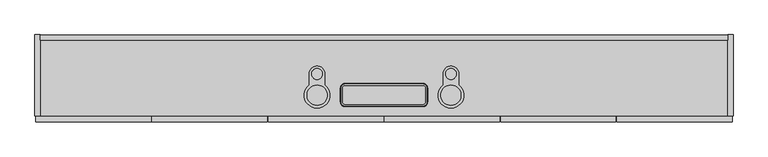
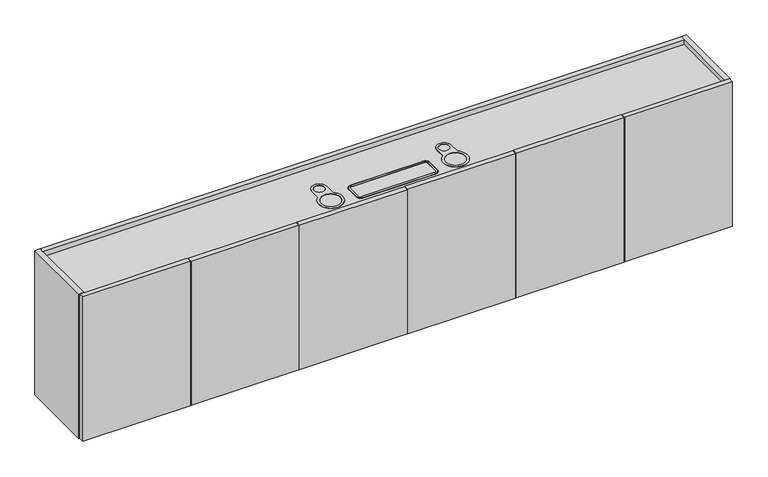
"""IFC4 building model written with IfcOpenShell, lengths in millimetres: furniture geometry, Geiger_GeigerOneCasegoods_UtilityCabinetForUseinHuddleApplication : Vertical Veneer 96Wx 12Dx 22.5H."""

from ifc_helpers import new_model, si_unit, point, frame, origin, place, context, project, spatial, polyline, circle_curve, ellipse_curve, trimmed, outline, extrude, faceted_brep, source, transform, mapped, element, save
from ifc_brep_helpers import plane_surface, cylinder_surface, revolved_surface, advanced_brep


def furniture_a65631a2(model_context):
    return source(origin(), model_context, "Body", "SolidModel", [
        extrude(outline(polyline([(405.8444444, -304.8), (3.0, -304.8), (3.0, -285.8), (405.8444444, -285.8), (405.8444444, -304.8)])), frame((0.0, 0.0, 12.7), z_axis=(0.0, 0.0, 1.0), x_axis=(1.0, 0.0, 0.0)), (0.0, 0.0, 1.0), 571.5),
        extrude(outline(polyline([(811.6888889, -304.8), (408.8444444, -304.8), (408.8444444, -285.8), (811.6888889, -285.8), (811.6888889, -304.8)])), frame((0.0, 0.0, 12.7), z_axis=(0.0, 0.0, 1.0), x_axis=(1.0, 0.0, 0.0)), (0.0, 0.0, 1.0), 571.5),
        extrude(outline(polyline([(1217.7, -304.8), (814.6888889, -304.8), (814.6888889, -285.8), (1217.7, -285.8), (1217.7, -304.8)])), frame((0.0, 0.0, 12.7), z_axis=(0.0, 0.0, 1.0), x_axis=(1.0, 0.0, 0.0)), (0.0, 0.0, 1.0), 571.5),
        extrude(outline(polyline([(1623.4878889, -304.8), (1220.7, -304.8), (1220.7, -285.8), (1623.4878889, -285.8), (1623.4878889, -304.8)])), frame((0.0, 0.0, 12.7), z_axis=(0.0, 0.0, 1.0), x_axis=(1.0, 0.0, 0.0)), (0.0, 0.0, 1.0), 571.5),
        extrude(outline(polyline([(2029.4424444, -304.8), (1626.4878889, -304.8), (1626.4878889, -285.8), (2029.4424444, -285.8), (2029.4424444, -304.8)])), frame((0.0, 0.0, 12.7), z_axis=(0.0, 0.0, 1.0), x_axis=(1.0, 0.0, 0.0)), (0.0, 0.0, 1.0), 571.5),
        extrude(outline(polyline([(2435.4, -304.8), (2032.4424444, -304.8), (2032.4424444, -285.8), (2435.4, -285.8), (2435.4, -304.8)])), frame((0.0, 0.0, 12.7), z_axis=(0.0, 0.0, 1.0), x_axis=(1.0, 0.0, 0.0)), (0.0, 0.0, 1.0), 571.5),
        extrude(outline(polyline([(1634.85, -19.5), (1634.85, -284.8), (1615.85, -284.8), (1615.85, -19.5), (1634.85, -19.5)])), frame((0.0, 0.0, 12.7), z_axis=(0.0, 0.0, 1.0), x_axis=(1.0, 0.0, 0.0)), (0.0, 0.0, 1.0), 533.5),
        faceted_brep([(2419.4, -19.5, 584.2), (2419.4, -19.5, 29.0), (2419.4, -0.5, 29.0), (2419.4, -0.5, 584.2), (2419.4, -284.3, 156.0), (2419.4, -284.3, 29.0), (2419.4, -265.3, 29.0), (2419.4, -265.3, 156.0), (19.0, -19.5, 584.2), (19.0, -0.5, 584.2), (19.0, -0.5, 29.0), (19.0, -19.5, 29.0), (19.0, -284.3, 156.0), (19.0, -265.3, 156.0), (19.0, -265.3, 29.0), (19.0, -284.3, 29.0), (803.55, -19.5, 29.0), (803.55, -19.5, 546.2), (822.55, -19.5, 546.2), (822.55, -19.5, 29.0), (822.55, -284.3, 156.0), (822.55, -284.3, 29.0), (803.55, -284.3, 29.0), (803.55, -284.3, 156.0), (822.55, -265.3, 29.0), (803.55, -265.3, 29.0), (822.55, -265.3, 156.0), (803.55, -265.3, 156.0), (803.55, -284.8, 12.7), (803.55, -284.8, 546.2), (803.55, -19.5, 12.7), (822.55, -284.8, 12.7), (822.55, -19.5, 12.7), (822.55, -284.8, 546.2)], [[[0, 1, 2, 3]], [[4, 5, 6, 7]], [[8, 9, 10, 11]], [[12, 13, 14, 15]], [[1, 0, 8, 11, 16, 17, 18, 19]], [[2, 1, 19, 16, 11, 10]], [[3, 2, 10, 9]], [[0, 3, 9, 8]], [[5, 4, 20, 21]], [[12, 15, 22, 23]], [[6, 5, 21, 24]], [[15, 14, 25, 22]], [[7, 6, 24, 26]], [[14, 13, 27, 25]], [[4, 7, 26, 20]], [[13, 12, 23, 27]], [[28, 29, 17, 16, 30], [23, 22, 25, 27]], [[31, 32, 19, 18, 33], [21, 20, 26, 24]], [[29, 28, 31, 33]], [[17, 29, 33, 18]], [[32, 30, 16, 19]], [[28, 30, 32, 31]]]),
        extrude(outline(polyline([(2419.4, -19.5), (2419.4, -284.8), (19.0, -284.8), (19.0, -19.5), (2419.4, -19.5)])), frame((0.0, 0.0, 546.2), z_axis=(0.0, 0.0, 1.0), x_axis=(1.0, 0.0, 0.0)), (0.0, 0.0, 1.0), 19.0),
        extrude(outline(polyline([(19.0, -284.8), (0.0, -284.8), (0.0, 0.0), (19.0, 0.0), (19.0, -284.8)])), frame((0.0, 0.0, 12.7), z_axis=(0.0, 0.0, 1.0), x_axis=(1.0, 0.0, 0.0)), (0.0, 0.0, 1.0), 571.5),
        extrude(outline(polyline([(2438.4, -284.8), (2419.4, -284.8), (2419.4, 0.0), (2438.4, 0.0), (2438.4, -284.8)])), frame((0.0, 0.0, 12.7), z_axis=(0.0, 0.0, 1.0), x_axis=(1.0, 0.0, 0.0)), (0.0, 0.0, 1.0), 571.5),
        advanced_brep(
        [(1067.9203563, -186.4, 566.7), (1083.1, -171.2203563, 566.7), (1083.1, -169.9922964, 565.2), (1066.6922964, -186.4, 565.2), (1066.6922964, -235.6, 565.2), (1067.9203563, -235.6, 566.7), (1083.1, -252.0077036, 565.2), (1083.1, -250.7796437, 566.7), (1355.3, -252.0077036, 565.2), (1355.3, -250.7796437, 566.7), (1371.7077036, -235.6, 565.2), (1370.4796437, -235.6, 566.7), (1371.7077036, -186.4, 565.2), (1370.4796437, -186.4, 566.7), (1355.3, -169.9922964, 565.2), (1355.3, -171.2203563, 566.7), (1083.1, -178.5, 566.7), (1355.3, -178.5, 566.7), (1363.2, -186.4, 566.7), (1363.2, -235.6, 566.7), (1355.3, -243.5, 566.7), (1083.1, -243.5, 566.7), (1075.2, -235.6, 566.7), (1075.2, -186.4, 566.7), (1075.2, -186.4, 566.001635), (1083.1, -178.5, 566.001635), (1075.2, -235.6, 566.001635), (1083.1, -243.5, 566.001635), (1355.3, -243.5, 566.001635), (1363.2, -235.6, 566.001635), (1363.2, -186.4, 566.001635), (1355.3, -178.5, 566.001635)],
        [
            (0, 1, circle_curve(frame((1083.1, -186.4, 566.7), z_axis=(0.0, 0.0, -1.0), x_axis=(0.0, 1.0, 0.0)), 15.1796437)),
            (1, 2, circle_curve(frame((1083.1, -171.2203563, 565.4472896), z_axis=(-1.0, 0.0, 0.0), x_axis=(0.0, -1.0, 0.0)), 1.2527104)),
            (2, 3, circle_curve(frame((1083.1, -186.4, 565.2), z_axis=(0.0, 0.0, 1.0), x_axis=(0.0, 1.0, 0.0)), 16.4077036)),
            (3, 0, circle_curve(frame((1067.9203563, -186.4, 565.4472896), z_axis=(0.0, 1.0, 0.0), x_axis=(1.0, 0.0, 0.0)), 1.2527104)),
            (3, 4),
            (4, 5, circle_curve(frame((1067.9203563, -235.6, 565.4472896), z_axis=(0.0, 1.0, 0.0), x_axis=(1.0, 0.0, 0.0)), 1.2527104)),
            (5, 0),
            (4, 6, circle_curve(frame((1083.1, -235.6, 565.2), z_axis=(0.0, 0.0, 1.0), x_axis=(-1.0, 0.0, 0.0)), 16.4077036)),
            (6, 7, circle_curve(frame((1083.1, -250.7796437, 565.4472896), z_axis=(-1.0, 0.0, 0.0), x_axis=(0.0, 1.0, 0.0)), 1.2527104)),
            (7, 5, circle_curve(frame((1083.1, -235.6, 566.7), z_axis=(0.0, 0.0, -1.0), x_axis=(-1.0, 0.0, 0.0)), 15.1796437)),
            (6, 8),
            (8, 9, circle_curve(frame((1355.3, -250.7796437, 565.4472896), z_axis=(-1.0, 0.0, 0.0), x_axis=(0.0, 1.0, 0.0)), 1.2527104)),
            (9, 7),
            (8, 10, circle_curve(frame((1355.3, -235.6, 565.2), z_axis=(0.0, 0.0, 1.0), x_axis=(0.0, -1.0, 0.0)), 16.4077036)),
            (10, 11, circle_curve(frame((1370.4796437, -235.6, 565.4472896), z_axis=(0.0, -1.0, 0.0), x_axis=(-1.0, 0.0, 0.0)), 1.2527104)),
            (11, 9, circle_curve(frame((1355.3, -235.6, 566.7), z_axis=(0.0, 0.0, -1.0), x_axis=(0.0, -1.0, 0.0)), 15.1796437)),
            (10, 12),
            (12, 13, circle_curve(frame((1370.4796437, -186.4, 565.4472896), z_axis=(0.0, -1.0, 0.0), x_axis=(-1.0, 0.0, 0.0)), 1.2527104)),
            (13, 11),
            (12, 14, circle_curve(frame((1355.3, -186.4, 565.2), z_axis=(0.0, 0.0, 1.0), x_axis=(1.0, 0.0, 0.0)), 16.4077036)),
            (14, 15, circle_curve(frame((1355.3, -171.2203563, 565.4472896), z_axis=(1.0, 0.0, 0.0), x_axis=(0.0, -1.0, 0.0)), 1.2527104)),
            (15, 13, circle_curve(frame((1355.3, -186.4, 566.7), z_axis=(0.0, 0.0, -1.0), x_axis=(1.0, 0.0, 0.0)), 15.1796437)),
            (1, 15),
            (14, 2),
            (16, 17),
            (17, 18, circle_curve(frame((1355.3, -186.4, 566.7), z_axis=(0.0, 0.0, -1.0), x_axis=(1.0, 0.0, 0.0)), 7.9)),
            (18, 19),
            (19, 20, circle_curve(frame((1355.3, -235.6, 566.7), z_axis=(0.0, 0.0, -1.0), x_axis=(0.0, -1.0, 0.0)), 7.9)),
            (20, 21),
            (21, 22, circle_curve(frame((1083.1, -235.6, 566.7), z_axis=(0.0, 0.0, -1.0), x_axis=(-1.0, 0.0, 0.0)), 7.9)),
            (22, 23),
            (23, 16, circle_curve(frame((1083.1, -186.4, 566.7), z_axis=(0.0, 0.0, -1.0), x_axis=(0.0, 1.0, 0.0)), 7.9)),
            (23, 24),
            (24, 25, circle_curve(frame((1083.1, -186.4, 566.001635), z_axis=(0.0, 0.0, -1.0), x_axis=(0.0, 1.0, 0.0)), 7.9)),
            (25, 16),
            (22, 26),
            (26, 24),
            (21, 27),
            (27, 26, circle_curve(frame((1083.1, -235.6, 566.001635), z_axis=(0.0, 0.0, -1.0), x_axis=(-1.0, 0.0, 0.0)), 7.9)),
            (20, 28),
            (28, 27),
            (19, 29),
            (29, 28, circle_curve(frame((1355.3, -235.6, 566.001635), z_axis=(0.0, 0.0, -1.0), x_axis=(0.0, -1.0, 0.0)), 7.9)),
            (18, 30),
            (30, 29),
            (17, 31),
            (31, 30, circle_curve(frame((1355.3, -186.4, 566.001635), z_axis=(0.0, 0.0, -1.0), x_axis=(1.0, 0.0, 0.0)), 7.9)),
            (25, 31),
        ],
        [
            revolved_surface(trimmed(ellipse_curve(frame((1083.1, -171.2203563, 565.4472896), z_axis=(1.0, 0.0, 0.0), x_axis=(0.0, -1.0, 0.0)), 1.2527104, 1.2527104), [point((1083.1, -169.9922964, 565.2))], [point((1083.1, -171.2203563, 566.7))], True, "CARTESIAN"), (1083.1, -186.4, 565.2), (0.0, 0.0, 1.0)),
            cylinder_surface(frame((1067.9203563, -186.4, 565.4472896), z_axis=(0.0, 1.0, 0.0), x_axis=(1.0, 0.0, 0.0)), 1.2527104),
            revolved_surface(trimmed(ellipse_curve(frame((1067.9203563, -235.6, 565.4472896), z_axis=(0.0, 1.0, 0.0), x_axis=(1.0, 0.0, 0.0)), 1.2527104, 1.2527104), [point((1066.6922964, -235.6, 565.2))], [point((1067.9203563, -235.6, 566.7))], True, "CARTESIAN"), (1083.1, -235.6, 565.2), (0.0, 0.0, 1.0)),
            cylinder_surface(frame((1083.1, -250.7796437, 565.4472896), z_axis=(-1.0, 0.0, 0.0), x_axis=(0.0, 1.0, 0.0)), 1.2527104),
            revolved_surface(trimmed(ellipse_curve(frame((1355.3, -250.7796437, 565.4472896), z_axis=(-1.0, 0.0, 0.0), x_axis=(0.0, 1.0, 0.0)), 1.2527104, 1.2527104), [point((1355.3, -252.0077036, 565.2))], [point((1355.3, -250.7796437, 566.7))], True, "CARTESIAN"), (1355.3, -235.6, 565.2), (0.0, 0.0, 1.0)),
            cylinder_surface(frame((1370.4796437, -235.6, 565.4472896), z_axis=(0.0, -1.0, 0.0), x_axis=(-1.0, 0.0, 0.0)), 1.2527104),
            revolved_surface(trimmed(ellipse_curve(frame((1370.4796437, -186.4, 565.4472896), z_axis=(0.0, -1.0, 0.0), x_axis=(-1.0, 0.0, 0.0)), 1.2527104, 1.2527104), [point((1371.7077036, -186.4, 565.2))], [point((1370.4796437, -186.4, 566.7))], True, "CARTESIAN"), (1355.3, -186.4, 565.2), (0.0, 0.0, 1.0)),
            cylinder_surface(frame((1355.3, -171.2203563, 565.4472896), z_axis=(1.0, 0.0, 0.0), x_axis=(0.0, -1.0, 0.0)), 1.2527104),
            plane_surface(frame((1355.3, -171.2203563, 566.7), z_axis=(0.0, 0.0, 1.0), x_axis=(-1.0, 0.0, 0.0))),
            revolved_surface(polyline([(1083.1, -178.5, 566.7), (1083.1, -178.5, 566.001635)]), (1083.1, -186.4, 565.2), (0.0, 0.0, 1.0)),
            plane_surface(frame((1075.2, -186.4, 566.7), z_axis=(1.0, 0.0, 0.0), x_axis=(0.0, -1.0, 0.0))),
            revolved_surface(polyline([(1075.1999999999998, -235.6, 566.7), (1075.1999999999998, -235.6, 566.001635)]), (1083.1, -235.6, 565.2), (0.0, 0.0, 1.0)),
            plane_surface(frame((1083.1, -243.5, 566.7), z_axis=(0.0, 1.0, 0.0), x_axis=(1.0, 0.0, 0.0))),
            revolved_surface(polyline([(1355.3, -243.5, 566.7), (1355.3, -243.5, 566.001635)]), (1355.3, -235.6, 565.2), (0.0, 0.0, 1.0)),
            plane_surface(frame((1363.2, -235.6, 566.7), z_axis=(-1.0, 0.0, 0.0), x_axis=(0.0, 1.0, 0.0))),
            revolved_surface(polyline([(1363.2, -186.4, 566.7), (1363.2, -186.4, 566.001635)]), (1355.3, -186.4, 565.2), (0.0, 0.0, 1.0)),
            plane_surface(frame((1355.3, -178.5, 566.7), z_axis=(0.0, -1.0, 0.0), x_axis=(-1.0, 0.0, 0.0))),
            plane_surface(frame((1355.3, -178.5, 565.2), z_axis=(0.0, 0.0, -1.0), x_axis=(-1.0, 0.0, 0.0))),
            plane_surface(frame((1083.1, -178.5, 566.001635), z_axis=(0.0, 0.0, 1.0), x_axis=(-1.0, 0.0, 0.0))),
        ],
        [
            (0, [[1, 2, 3, 4]]),
            (1, [[-4, 5, 6, 7]]),
            (2, [[-6, 8, 9, 10]]),
            (3, [[-9, 11, 12, 13]]),
            (4, [[-12, 14, 15, 16]]),
            (5, [[-15, 17, 18, 19]]),
            (6, [[-18, 20, 21, 22]]),
            (7, [[-2, 23, -21, 24]]),
            (8, [[-1, -7, -10, -13, -16, -19, -22, -23], [25, 26, 27, 28, 29, 30, 31, 32]]),
            (9, [[-32, 33, 34, 35]]),
            (10, [[-31, 36, 37, -33]]),
            (11, [[-30, 38, 39, -36]]),
            (12, [[-29, 40, 41, -38]]),
            (13, [[-28, 42, 43, -40]]),
            (14, [[-27, 44, 45, -42]]),
            (15, [[-26, 46, 47, -44]]),
            (16, [[-25, -35, 48, -46]]),
            (17, [[-3, -24, -20, -17, -14, -11, -8, -5]]),
            (18, [[-34, -37, -39, -41, -43, -45, -47, -48]]),
        ],
    ),
        advanced_brep(
        [(1013.02, -175.7120661, 565.2), (958.02, -175.7120661, 565.2), (958.02, -137.2423843, 565.2), (1013.02, -137.2423843, 565.2), (1013.02, -175.7120661, 566.8), (1013.02, -137.2423843, 566.8), (958.02, -137.2423843, 566.8), (958.02, -175.7120661, 566.8), (985.52, -156.1737393, 566.8), (985.52, -118.3110294, 566.8), (985.52, -246.8820899, 566.8), (985.52, -176.0226387, 566.8), (985.52, -156.1737393, 566.001635), (985.52, -118.3110294, 566.001635), (985.52, -246.8820899, 566.001635), (985.52, -176.0226387, 566.001635)],
        [
            (0, 1, circle_curve(frame((985.52, -211.4523643, 565.2), z_axis=(0.0, 0.0, -1.0), x_axis=(0.0, 1.0, 0.0)), 45.095664)),
            (1, 2),
            (2, 3, circle_curve(frame((985.52, -137.2423843, 565.2), z_axis=(0.0, 0.0, -1.0), x_axis=(0.0, 1.0, 0.0)), 27.5)),
            (3, 0),
            (4, 5),
            (5, 6, circle_curve(frame((985.52, -137.2423843, 566.8), z_axis=(0.0, 0.0, 1.0), x_axis=(0.0, 1.0, 0.0)), 27.5)),
            (6, 7),
            (7, 4, circle_curve(frame((985.52, -211.4523643, 566.8), z_axis=(0.0, 0.0, 1.0), x_axis=(0.0, 1.0, 0.0)), 45.095664)),
            (8, 9, circle_curve(frame((985.52, -137.2423843, 566.8), z_axis=(0.0, 0.0, -1.0), x_axis=(0.0, 1.0, 0.0)), 18.931355)),
            (9, 8, circle_curve(frame((985.52, -137.2423843, 566.8), z_axis=(0.0, 0.0, -1.0), x_axis=(0.0, 1.0, 0.0)), 18.931355)),
            (10, 11, circle_curve(frame((985.52, -211.4523643, 566.8), z_axis=(0.0, 0.0, -1.0), x_axis=(0.0, 1.0, 0.0)), 35.4297256)),
            (11, 10, circle_curve(frame((985.52, -211.4523643, 566.8), z_axis=(0.0, 0.0, -1.0), x_axis=(0.0, 1.0, 0.0)), 35.4297256)),
            (3, 5),
            (4, 0),
            (2, 6),
            (1, 7),
            (8, 12),
            (12, 13, circle_curve(frame((985.52, -137.2423843, 566.001635), z_axis=(0.0, 0.0, -1.0), x_axis=(0.0, 1.0, 0.0)), 18.931355)),
            (13, 9),
            (13, 12, circle_curve(frame((985.52, -137.2423843, 566.001635), z_axis=(0.0, 0.0, -1.0), x_axis=(0.0, 1.0, 0.0)), 18.931355)),
            (10, 14),
            (14, 15, circle_curve(frame((985.52, -211.4523643, 566.001635), z_axis=(0.0, 0.0, -1.0), x_axis=(0.0, 1.0, 0.0)), 35.4297256)),
            (15, 11),
            (15, 14, circle_curve(frame((985.52, -211.4523643, 566.001635), z_axis=(0.0, 0.0, -1.0), x_axis=(0.0, 1.0, 0.0)), 35.4297256)),
        ],
        [
            plane_surface(frame((985.52, -265.3, 565.2), z_axis=(0.0, 0.0, -1.0), x_axis=(-1.0, 0.0, 0.0))),
            plane_surface(frame((985.52, -265.3, 566.8), z_axis=(0.0, 0.0, 1.0), x_axis=(-1.0, 0.0, 0.0))),
            plane_surface(frame((1013.02, -137.2423843, 565.2), z_axis=(1.0, 0.0, 0.0), x_axis=(0.0, 0.0, 1.0))),
            cylinder_surface(frame((985.52, -137.2423843, 565.2), z_axis=(0.0, 0.0, -1.0), x_axis=(0.0, 1.0, 0.0)), 27.5),
            plane_surface(frame((958.02, -175.7120661, 565.2), z_axis=(-1.0, 0.0, 0.0), x_axis=(0.0, 0.0, 1.0))),
            cylinder_surface(frame((985.52, -211.4523643, 565.2), z_axis=(0.0, 0.0, -1.0), x_axis=(0.0, 1.0, 0.0)), 45.095664),
            revolved_surface(polyline([(985.52, -118.3110293, 566.8), (985.52, -118.3110293, 566.001635)]), (985.52, -137.2423843, 565.2), (0.0, 0.0, 1.0)),
            revolved_surface(polyline([(985.52, -176.02263870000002, 566.8), (985.52, -176.02263870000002, 566.001635)]), (985.52, -211.4523643, 565.2), (0.0, 0.0, 1.0)),
            plane_surface(frame((966.588645, -137.2423843, 566.001635), z_axis=(0.0, 0.0, 1.0), x_axis=(0.0, -1.0, 0.0))),
        ],
        [
            (0, [[1, 2, 3, 4]]),
            (1, [[5, 6, 7, 8], [9, 10], [11, 12]]),
            (2, [[-4, 13, -5, 14]]),
            (3, [[-3, 15, -6, -13]]),
            (4, [[-2, 16, -7, -15]]),
            (5, [[-1, -14, -8, -16]]),
            (6, [[-9, 17, 18, 19]]),
            (6, [[-10, -19, 20, -17]]),
            (7, [[-11, 21, 22, 23]]),
            (7, [[-12, -23, 24, -21]]),
            (8, [[-18, -20]]),
            (8, [[-22, -24]]),
        ],
    ),
        advanced_brep(
        [(1425.38, -175.7120661, 565.2), (1425.38, -137.2423843, 565.2), (1480.38, -137.2423843, 565.2), (1480.38, -175.7120661, 565.2), (1425.38, -175.7120661, 566.8), (1480.38, -175.7120661, 566.8), (1480.38, -137.2423843, 566.8), (1425.38, -137.2423843, 566.8), (1452.88, -118.3110294, 566.8), (1452.88, -156.1737393, 566.8), (1452.88, -176.0226387, 566.8), (1452.88, -246.8820899, 566.8), (1452.88, -156.1737393, 566.1909845), (1452.88, -118.3110294, 566.1909845), (1452.88, -246.8820899, 566.1909845), (1452.88, -176.0226387, 566.1909845)],
        [
            (0, 1),
            (1, 2, circle_curve(frame((1452.88, -137.2423843, 565.2), z_axis=(0.0, 0.0, -1.0), x_axis=(0.0, -1.0, 0.0)), 27.5)),
            (2, 3),
            (3, 0, circle_curve(frame((1452.88, -211.4523643, 565.2), z_axis=(0.0, 0.0, -1.0), x_axis=(0.0, -1.0, 0.0)), 45.095664)),
            (4, 5, circle_curve(frame((1452.88, -211.4523643, 566.8), z_axis=(0.0, 0.0, 1.0), x_axis=(0.0, -1.0, 0.0)), 45.095664)),
            (5, 6),
            (6, 7, circle_curve(frame((1452.88, -137.2423843, 566.8), z_axis=(0.0, 0.0, 1.0), x_axis=(0.0, -1.0, 0.0)), 27.5)),
            (7, 4),
            (8, 9, circle_curve(frame((1452.88, -137.2423843, 566.8), z_axis=(0.0, 0.0, -1.0), x_axis=(0.0, -1.0, 0.0)), 18.931355)),
            (9, 8, circle_curve(frame((1452.88, -137.2423843, 566.8), z_axis=(0.0, 0.0, -1.0), x_axis=(0.0, -1.0, 0.0)), 18.931355)),
            (10, 11, circle_curve(frame((1452.88, -211.4523643, 566.8), z_axis=(0.0, 0.0, -1.0), x_axis=(0.0, -1.0, 0.0)), 35.4297256)),
            (11, 10, circle_curve(frame((1452.88, -211.4523643, 566.8), z_axis=(0.0, 0.0, -1.0), x_axis=(0.0, -1.0, 0.0)), 35.4297256)),
            (0, 4),
            (7, 1),
            (6, 2),
            (5, 3),
            (9, 12),
            (12, 13, circle_curve(frame((1452.88, -137.2423843, 566.1909845), z_axis=(0.0, 0.0, -1.0), x_axis=(0.0, -1.0, 0.0)), 18.931355)),
            (13, 8),
            (13, 12, circle_curve(frame((1452.88, -137.2423843, 566.1909845), z_axis=(0.0, 0.0, -1.0), x_axis=(0.0, -1.0, 0.0)), 18.931355)),
            (11, 14),
            (14, 15, circle_curve(frame((1452.88, -211.4523643, 566.1909845), z_axis=(0.0, 0.0, -1.0), x_axis=(0.0, -1.0, 0.0)), 35.4297256)),
            (15, 10),
            (15, 14, circle_curve(frame((1452.88, -211.4523643, 566.1909845), z_axis=(0.0, 0.0, -1.0), x_axis=(0.0, -1.0, 0.0)), 35.4297256)),
        ],
        [
            plane_surface(frame((1452.88, -265.3, 565.2), z_axis=(0.0, 0.0, -1.0), x_axis=(1.0, 0.0, 0.0))),
            plane_surface(frame((1452.88, -265.3, 566.8), z_axis=(0.0, 0.0, 1.0), x_axis=(1.0, 0.0, 0.0))),
            plane_surface(frame((1425.38, -175.7120661, 565.2), z_axis=(-1.0, 0.0, 0.0), x_axis=(0.0, 0.0, 1.0))),
            cylinder_surface(frame((1452.88, -137.2423843, 565.2), z_axis=(0.0, 0.0, -1.0), x_axis=(0.0, -1.0, 0.0)), 27.5),
            plane_surface(frame((1480.38, -137.2423843, 565.2), z_axis=(1.0, 0.0, 0.0), x_axis=(0.0, 0.0, 1.0))),
            cylinder_surface(frame((1452.88, -211.4523643, 565.2), z_axis=(0.0, 0.0, -1.0), x_axis=(0.0, -1.0, 0.0)), 45.095664),
            revolved_surface(polyline([(1452.88, -156.1737393, 566.8), (1452.88, -156.1737393, 566.1909845)]), (1452.88, -137.2423843, 565.2), (0.0, 0.0, 1.0)),
            revolved_surface(polyline([(1452.88, -246.88208989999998, 566.8), (1452.88, -246.88208989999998, 566.1909845)]), (1452.88, -211.4523643, 565.2), (0.0, 0.0, 1.0)),
            plane_surface(frame((1433.948645, -137.2423843, 566.1909845), z_axis=(0.0, 0.0, 1.0), x_axis=(0.0, -1.0, 0.0))),
        ],
        [
            (0, [[1, 2, 3, 4]]),
            (1, [[5, 6, 7, 8], [9, 10], [11, 12]]),
            (2, [[-1, 13, -8, 14]]),
            (3, [[-2, -14, -7, 15]]),
            (4, [[-3, -15, -6, 16]]),
            (5, [[-4, -16, -5, -13]]),
            (6, [[-10, 17, 18, 19]]),
            (6, [[-9, -19, 20, -17]]),
            (7, [[-12, 21, 22, 23]]),
            (7, [[-11, -23, 24, -21]]),
            (8, [[-18, -20]]),
            (8, [[-22, -24]]),
        ],
    ),
    ])


if __name__ == "__main__":
    model = new_model("IFC4")
    model_context = context("Model", 3, world=origin())
    ifc_project = project(units=[si_unit("LENGTHUNIT", "METRE", prefix="MILLI")], contexts=[model_context])
    site = spatial("IfcSite", under=ifc_project)
    building = spatial("IfcBuilding", under=site)
    placement = place(None, origin())
    furniture_shape = furniture_a65631a2(model_context)
    element("IfcFurniture", 1, ObjectType="Geiger_GeigerOneCasegoods_UtilityCabinetForUseinHuddleApplication : Vertical Veneer 96Wx 12Dx 22.5H", at=placement, inside=building, context=model_context, shape_type="MappedRepresentation", body=[
        mapped(furniture_shape, transform((0.0, 0.0, 0.0), x_axis=(1.0, 0.0, 0.0), y_axis=(0.0, 1.0, 0.0), z_axis=(0.0, 0.0, 1.0))),
    ])
    save(model, "model.ifc")
